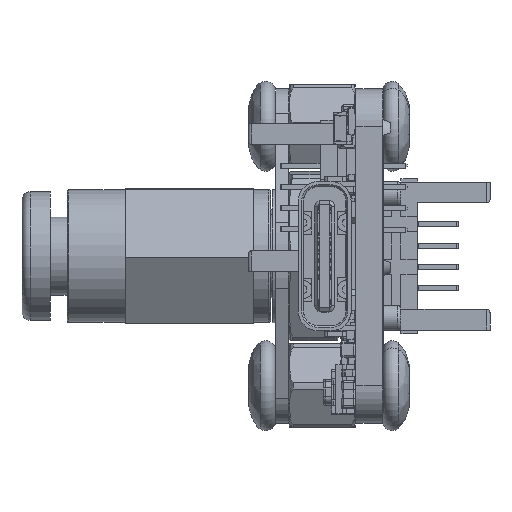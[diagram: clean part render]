
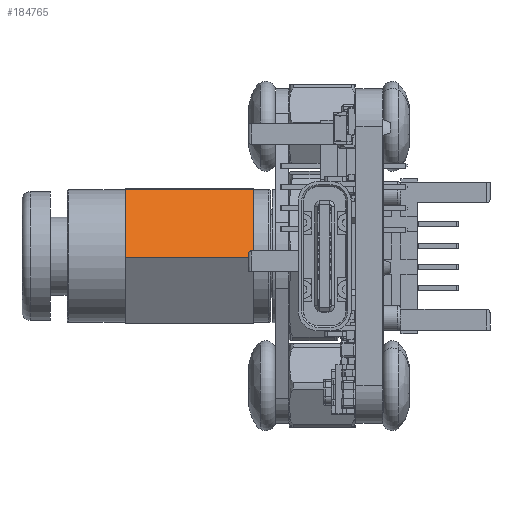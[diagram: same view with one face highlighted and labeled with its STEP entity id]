
A CAD part, left-side view. The second image highlights one B-rep face of the part: STEP entity #184765.
In plain terms, the highlighted planar face has unit normal (-0.873, 0, 0.487).
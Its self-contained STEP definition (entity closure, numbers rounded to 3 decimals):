
#639 = CARTESIAN_POINT ( 'NONE',  ( -4.618, 8.7, -0.069 ) ) ;
#704 = DIRECTION ( 'NONE',  ( 0.487, 0., 0.873 ) ) ;
#2622 = DIRECTION ( 'NONE',  ( 0., -1., 0. ) ) ;
#2625 = CARTESIAN_POINT ( 'NONE',  ( -4.618, 8.7, -0.069 ) ) ;
#2674 = CARTESIAN_POINT ( 'NONE',  ( -4.618, 1., -0.069 ) ) ;
#2676 = CARTESIAN_POINT ( 'NONE',  ( -2.369, 8.7, 3.965 ) ) ;
#2691 = DIRECTION ( 'NONE',  ( 0., -1., 0. ) ) ;
#2693 = DIRECTION ( 'NONE',  ( 0.487, 0., 0.873 ) ) ;
#26071 = AXIS2_PLACEMENT_3D ( 'NONE', #61880, #61848, #61859 ) ;
#32492 = EDGE_LOOP ( 'NONE', ( #111658, #111601, #111627, #111634 ) ) ;
#48370 = FACE_OUTER_BOUND ( 'NONE', #32492, .T. ) ;
#49836 = CARTESIAN_POINT ( 'NONE',  ( -4.618, 1., -0.069 ) ) ;
#49882 = CARTESIAN_POINT ( 'NONE',  ( -2.369, 8.7, 3.965 ) ) ;
#49892 = CARTESIAN_POINT ( 'NONE',  ( -2.369, 1., 3.965 ) ) ;
#49897 = CARTESIAN_POINT ( 'NONE',  ( -4.618, 8.7, -0.069 ) ) ;
#61848 = DIRECTION ( 'NONE',  ( 0.873, 0., -0.487 ) ) ;
#61859 = DIRECTION ( 'NONE',  ( -0.487, 0., -0.873 ) ) ;
#61878 = PLANE ( 'NONE',  #26071 ) ;
#61880 = CARTESIAN_POINT ( 'NONE',  ( -4.618, 8.7, -0.069 ) ) ;
#86084 = EDGE_CURVE ( 'NONE', #103651, #103608, #229388, .T. ) ;
#86092 = EDGE_CURVE ( 'NONE', #103617, #103700, #229483, .T. ) ;
#86095 = EDGE_CURVE ( 'NONE', #103608, #103700, #229504, .T. ) ;
#86108 = EDGE_CURVE ( 'NONE', #103651, #103617, #229473, .T. ) ;
#103608 = VERTEX_POINT ( 'NONE', #49836 ) ;
#103617 = VERTEX_POINT ( 'NONE', #49882 ) ;
#103651 = VERTEX_POINT ( 'NONE', #49897 ) ;
#103700 = VERTEX_POINT ( 'NONE', #49892 ) ;
#111601 = ORIENTED_EDGE ( 'NONE', *, *, #86092, .F. ) ;
#111627 = ORIENTED_EDGE ( 'NONE', *, *, #86108, .F. ) ;
#111634 = ORIENTED_EDGE ( 'NONE', *, *, #86084, .T. ) ;
#111658 = ORIENTED_EDGE ( 'NONE', *, *, #86095, .T. ) ;
#184765 = ADVANCED_FACE ( 'NONE', ( #48370 ), #61878, .F. ) ;
#229388 = LINE ( 'NONE', #2625, #229411 ) ;
#229411 = VECTOR ( 'NONE', #2622, 1000. ) ;
#229473 = LINE ( 'NONE', #639, #229571 ) ;
#229483 = LINE ( 'NONE', #2676, #229589 ) ;
#229492 = VECTOR ( 'NONE', #2693, 1000. ) ;
#229504 = LINE ( 'NONE', #2674, #229492 ) ;
#229571 = VECTOR ( 'NONE', #704, 1000. ) ;
#229589 = VECTOR ( 'NONE', #2691, 1000. ) ;
